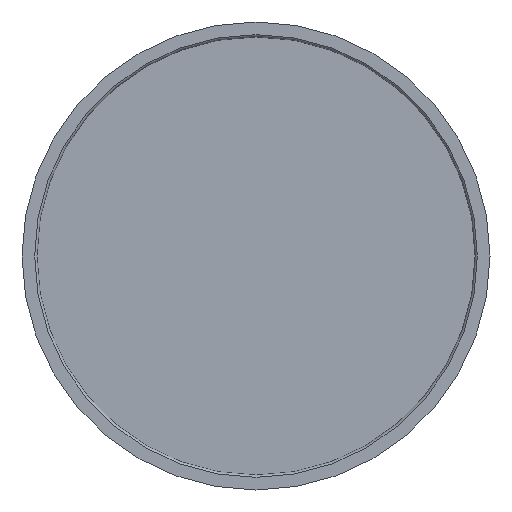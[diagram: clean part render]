
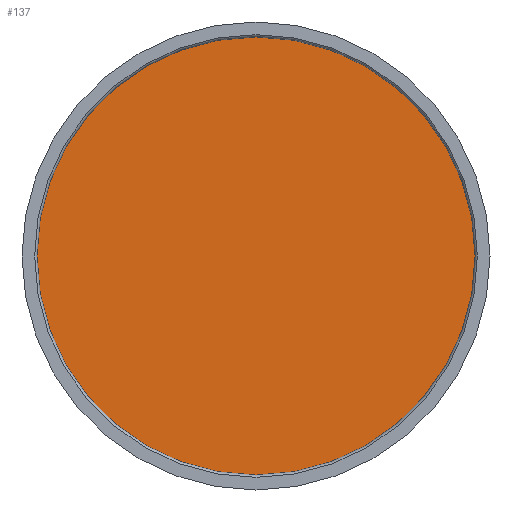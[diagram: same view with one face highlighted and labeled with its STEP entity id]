
A CAD part, front view. The second image highlights one B-rep face of the part: STEP entity #137.
In plain terms, the highlighted planar face has unit normal (0, -1, 0).
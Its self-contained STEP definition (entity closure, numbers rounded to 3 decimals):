
#137 = ADVANCED_FACE( '', ( #313 ), #314, .T. );
#313 = FACE_OUTER_BOUND( '', #547, .T. );
#314 = PLANE( '', #548 );
#547 = EDGE_LOOP( '', ( #971 ) );
#548 = AXIS2_PLACEMENT_3D( '', #972, #973, #974 );
#971 = ORIENTED_EDGE( '', *, *, #1564, .T. );
#972 = CARTESIAN_POINT( '', ( -35., 12.7, 0. ) );
#973 = DIRECTION( '', ( 0., -1., 0. ) );
#974 = DIRECTION( '', ( 1., 0., 0. ) );
#1564 = EDGE_CURVE( '', #1851, #1851, #1852, .T. );
#1851 = VERTEX_POINT( '', #2532 );
#1852 = CIRCLE( '', #2533, 35. );
#2532 = CARTESIAN_POINT( '', ( 35., 12.7, 0. ) );
#2533 = AXIS2_PLACEMENT_3D( '', #2935, #2936, #2937 );
#2935 = CARTESIAN_POINT( '', ( 0., 12.7, 0. ) );
#2936 = DIRECTION( '', ( 0., -1., 0. ) );
#2937 = DIRECTION( '', ( 1., 0., 0. ) );
